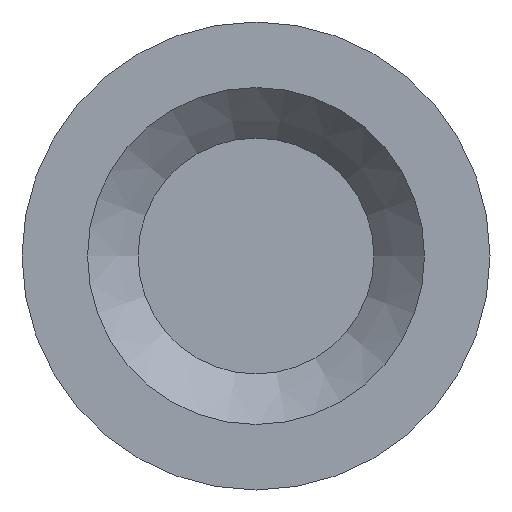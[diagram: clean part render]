
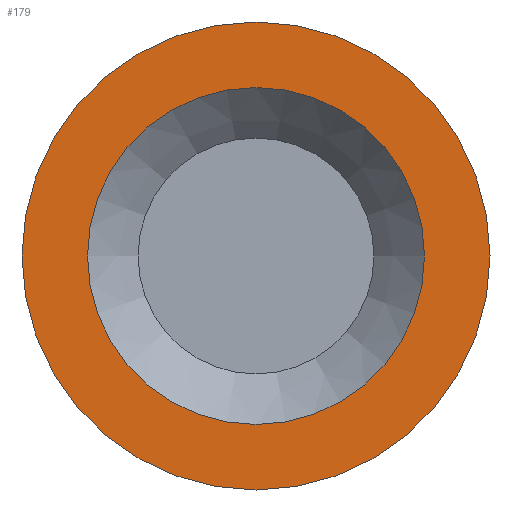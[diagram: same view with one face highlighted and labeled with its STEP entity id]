
A CAD part, left-side view. The second image highlights one B-rep face of the part: STEP entity #179.
In plain terms, the highlighted planar face has unit normal (-1, 0, 0).
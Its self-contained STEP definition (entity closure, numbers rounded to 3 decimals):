
#15=PLANE($,#205);
#28=FACE_BOUND($,#65,.T.);
#44=FACE_OUTER_BOUND($,#64,.T.);
#64=EDGE_LOOP($,(#144));
#65=EDGE_LOOP($,(#145));
#91=CIRCLE($,#204,1.143);
#92=CIRCLE($,#206,1.588);
#107=VERTEX_POINT($,#311);
#108=VERTEX_POINT($,#314);
#123=EDGE_CURVE($,#107,#107,#91,.T.);
#124=EDGE_CURVE($,#108,#108,#92,.T.);
#144=ORIENTED_EDGE($,*,*,#124,.F.);
#145=ORIENTED_EDGE($,*,*,#123,.T.);
#179=ADVANCED_FACE($,(#44,#28),#15,.T.);
#204=AXIS2_PLACEMENT_3D($,#312,#249,#250);
#205=AXIS2_PLACEMENT_3D($,#313,#251,#252);
#206=AXIS2_PLACEMENT_3D($,#315,#253,#254);
#249=DIRECTION('center_axis',(1.,0.,0.));
#250=DIRECTION('ref_axis',(0.,1.,0.));
#251=DIRECTION('center_axis',(-1.,0.,0.));
#252=DIRECTION('ref_axis',(0.,0.,1.));
#253=DIRECTION('center_axis',(1.,0.,0.));
#254=DIRECTION('ref_axis',(0.,1.,0.));
#311=CARTESIAN_POINT('',(6.602,1.143,0.));
#312=CARTESIAN_POINT('Origin',(6.602,0.,0.));
#313=CARTESIAN_POINT('Origin',(6.602,1.365,0.));
#314=CARTESIAN_POINT('',(6.602,1.588,0.));
#315=CARTESIAN_POINT('Origin',(6.602,0.,0.));
